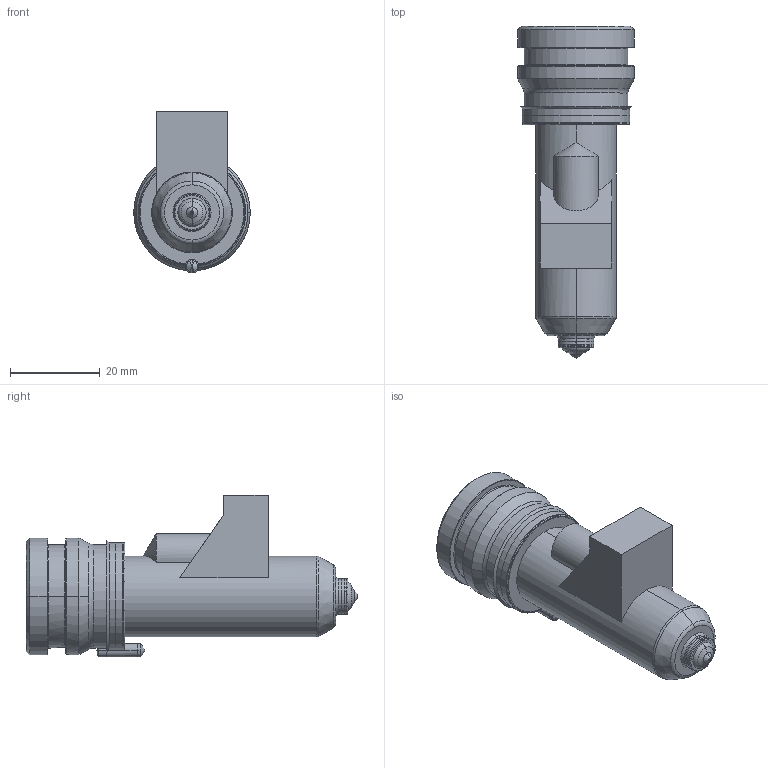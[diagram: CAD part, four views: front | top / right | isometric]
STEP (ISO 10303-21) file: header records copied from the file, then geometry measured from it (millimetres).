
FILE_DESCRIPTION((''),'2;1');
FILE_NAME('TH18056-M-1GLT-PK-JG','2023-12-14T',('umhib'),('Thermoplay S.p.A.'),'PRO/ENGINEER BY PARAMETRIC TECHNOLOGY CORPORATION, 2017170','PRO/ENGINEER BY PARAMETRIC TECHNOLOGY CORPORATION, 2017170','');
FILE_SCHEMA(('CONFIG_CONTROL_DESIGN'));
Length unit declared in the file: millimetre
Products named in the file (1): TH18056-M-1GLT-PK-JG
Bounding box: 26 x 74 x 36.1 mm (x, y, z)
Volume: 17049.6 mm3; surface area: 13626.4 mm2
Topology: 1 solids, 2 shells, 413 faces, 1052 edges, 647 vertices
Faces by surface type: cylinder 160, plane 92, cone 64, torus 64, bspline 22, sphere 9, extrusion 2
Entity records: 16937 total; most frequent: CARTESIAN_POINT 4939, DIRECTION 2166, ORIENTED_EDGE 2078, EDGE_CURVE 1041, AXIS2_PLACEMENT_3D 881, VERTEX_POINT 647, CIRCLE 491, EDGE_LOOP 441
